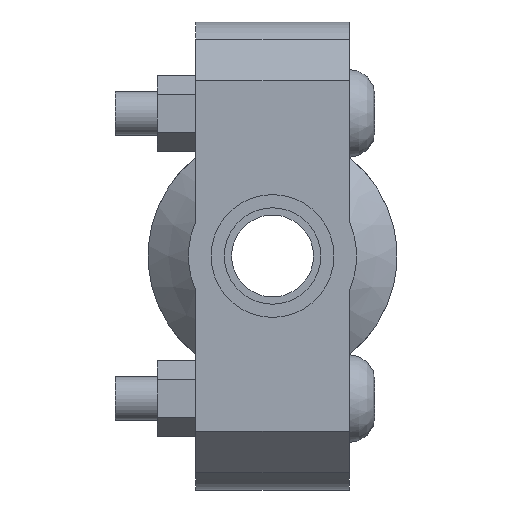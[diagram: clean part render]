
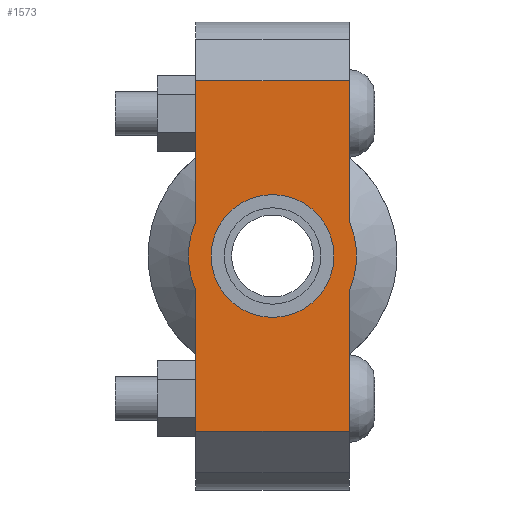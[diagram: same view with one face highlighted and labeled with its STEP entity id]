
A CAD part, left-side view. The second image highlights one B-rep face of the part: STEP entity #1573.
In plain terms, the highlighted planar face has unit normal (-1, 0, 0) as drawn and (0, 0, 1) by its records, which use the part's own axes.
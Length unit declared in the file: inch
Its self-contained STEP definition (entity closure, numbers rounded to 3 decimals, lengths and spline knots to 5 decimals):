
#128=LINE('',#2719,#225);
#143=LINE('',#2778,#240);
#151=LINE('',#2808,#248);
#153=LINE('',#2811,#250);
#154=LINE('',#2816,#251);
#155=LINE('',#2817,#252);
#225=VECTOR('',#2219,0.3937);
#240=VECTOR('',#2254,0.3937);
#248=VECTOR('',#2274,0.3937);
#250=VECTOR('',#2278,0.3937);
#251=VECTOR('',#2283,0.3937);
#252=VECTOR('',#2284,0.3937);
#316=FACE_BOUND('',#493,.T.);
#384=FACE_OUTER_BOUND('',#492,.T.);
#492=EDGE_LOOP('',(#1274,#1275,#1276,#1277,#1278,#1279,#1280,#1281));
#493=EDGE_LOOP('',(#1282));
#575=CIRCLE('',#1801,0.525);
#599=CIRCLE('',#1853,0.719);
#600=CIRCLE('',#1854,0.719);
#671=VERTEX_POINT('',#2545);
#712=VERTEX_POINT('',#2716);
#713=VERTEX_POINT('',#2718);
#734=VERTEX_POINT('',#2773);
#735=VERTEX_POINT('',#2777);
#744=VERTEX_POINT('',#2803);
#745=VERTEX_POINT('',#2807);
#746=VERTEX_POINT('',#2813);
#747=VERTEX_POINT('',#2815);
#835=EDGE_CURVE('',#671,#671,#575,.T.);
#892=EDGE_CURVE('',#713,#712,#128,.T.);
#917=EDGE_CURVE('',#735,#734,#143,.T.);
#930=EDGE_CURVE('',#745,#744,#151,.T.);
#932=EDGE_CURVE('',#745,#712,#153,.T.);
#933=EDGE_CURVE('',#744,#746,#599,.T.);
#934=EDGE_CURVE('',#746,#747,#154,.T.);
#935=EDGE_CURVE('',#735,#747,#155,.T.);
#936=EDGE_CURVE('',#734,#713,#600,.T.);
#1274=ORIENTED_EDGE('',*,*,#932,.F.);
#1275=ORIENTED_EDGE('',*,*,#930,.T.);
#1276=ORIENTED_EDGE('',*,*,#933,.T.);
#1277=ORIENTED_EDGE('',*,*,#934,.T.);
#1278=ORIENTED_EDGE('',*,*,#935,.F.);
#1279=ORIENTED_EDGE('',*,*,#917,.T.);
#1280=ORIENTED_EDGE('',*,*,#936,.T.);
#1281=ORIENTED_EDGE('',*,*,#892,.T.);
#1282=ORIENTED_EDGE('',*,*,#835,.T.);
#1413=PLANE('',#1852);
#1573=ADVANCED_FACE('',(#384,#316),#1413,.T.);
#1801=AXIS2_PLACEMENT_3D('',#2547,#2109,#2110);
#1852=AXIS2_PLACEMENT_3D('',#2812,#2279,#2280);
#1853=AXIS2_PLACEMENT_3D('',#2814,#2281,#2282);
#1854=AXIS2_PLACEMENT_3D('',#2818,#2285,#2286);
#2109=DIRECTION('center_axis',(0.,0.,-1.));
#2110=DIRECTION('ref_axis',(-1.,0.,0.));
#2219=DIRECTION('',(-1.,0.,0.));
#2254=DIRECTION('',(-1.,0.,0.));
#2274=DIRECTION('',(1.,0.,0.));
#2278=DIRECTION('',(0.,1.,0.));
#2279=DIRECTION('center_axis',(0.,0.,1.));
#2280=DIRECTION('ref_axis',(1.,0.,0.));
#2281=DIRECTION('center_axis',(0.,0.,1.));
#2282=DIRECTION('ref_axis',(-1.,0.,0.));
#2283=DIRECTION('',(1.,0.,0.));
#2284=DIRECTION('',(0.,-1.,0.));
#2285=DIRECTION('center_axis',(0.,0.,1.));
#2286=DIRECTION('ref_axis',(-1.,0.,0.));
#2545=CARTESIAN_POINT('',(0.525,0.,0.875));
#2547=CARTESIAN_POINT('Origin',(0.,0.,0.875));
#2716=CARTESIAN_POINT('',(-1.5,0.656,0.875));
#2718=CARTESIAN_POINT('',(-0.29432,0.656,0.875));
#2719=CARTESIAN_POINT('',(2.,0.656,0.875));
#2773=CARTESIAN_POINT('',(0.29432,0.656,0.875));
#2777=CARTESIAN_POINT('',(1.5,0.656,0.875));
#2778=CARTESIAN_POINT('',(2.,0.656,0.875));
#2803=CARTESIAN_POINT('',(-0.29432,-0.656,0.875));
#2807=CARTESIAN_POINT('',(-1.5,-0.656,0.875));
#2808=CARTESIAN_POINT('',(-2.,-0.656,0.875));
#2811=CARTESIAN_POINT('',(-1.5,0.328,0.875));
#2812=CARTESIAN_POINT('Origin',(0.,0.,
0.875));
#2813=CARTESIAN_POINT('',(0.29432,-0.656,0.875));
#2814=CARTESIAN_POINT('Origin',(0.,0.,0.875));
#2815=CARTESIAN_POINT('',(1.5,-0.656,0.875));
#2816=CARTESIAN_POINT('',(-2.,-0.656,0.875));
#2817=CARTESIAN_POINT('',(1.5,-0.328,0.875));
#2818=CARTESIAN_POINT('Origin',(0.,0.,0.875));
